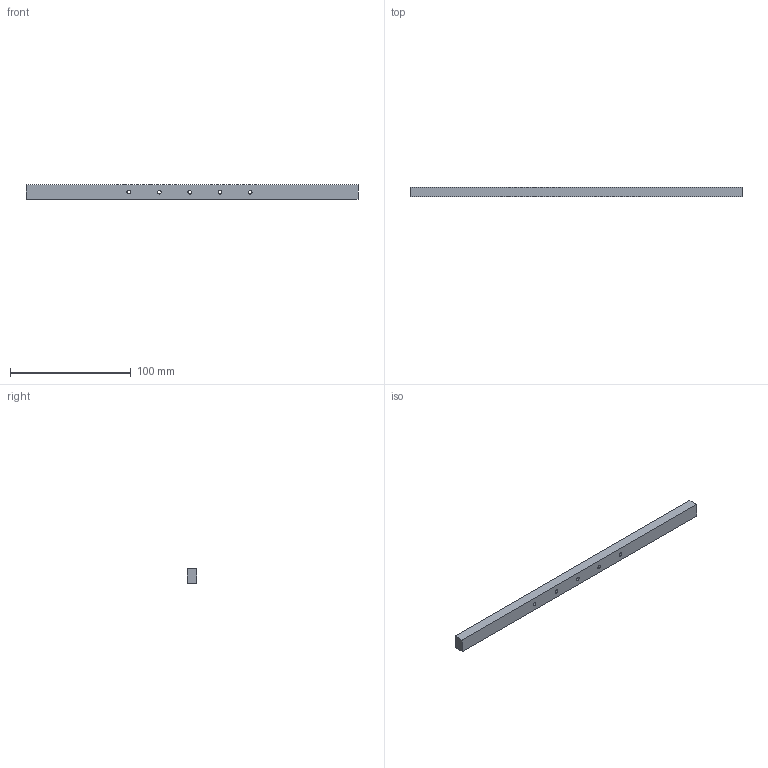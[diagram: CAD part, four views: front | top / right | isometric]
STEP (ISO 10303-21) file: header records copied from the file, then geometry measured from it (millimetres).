
FILE_DESCRIPTION(/* description */ ('STEP AP242 Edition 2','CAx-IF Rec.Pracs.---Representation and Presentation of Product Manufacturing Information (PMI)---4.0---2014-10-13','CAx-IF Rec.Pracs.---3D Tessellated Geometry---0.4---2014-09-14','2;1','CAx-IF Rec.Pracs.---User Defined Attributes---1.5---2016-08-15'),/* implementation_level */ '2;1');
FILE_NAME(/* name */ 'Assembly 1 - Part 1 (4)',/* time_stamp */ '2026-10-08T06:00:11Z',/* author */ (''),/* organization */ (''),/* preprocessor_version */ 'ST-DEVELOPER v20',/* originating_system */ 'ONSHAPE BY PTC INC, 1.221',/* authorisation */ ' ');
FILE_SCHEMA (('AP242_MANAGED_MODEL_BASED_3D_ENGINEERING_MIM_LF { 1 0 10303 442 3 1 4 }'));
Length unit declared in the file: metre
Products named in the file (1): Part 1
Bounding box: 275 x 8 x 12 mm (x, y, z)
Volume: 26109.5 mm3; surface area: 11495.1 mm2
Topology: 1 solids, 1 shells, 16 faces, 42 edges, 28 vertices
Faces by surface type: bspline 16
Entity records: 558 total; most frequent: CARTESIAN_POINT 185, ORIENTED_EDGE 84, DIRECTION 54, EDGE_CURVE 42, VERTEX_POINT 28, EDGE_LOOP 26, FACE_BOUND 26, AXIS2_PLACEMENT_3D 21
